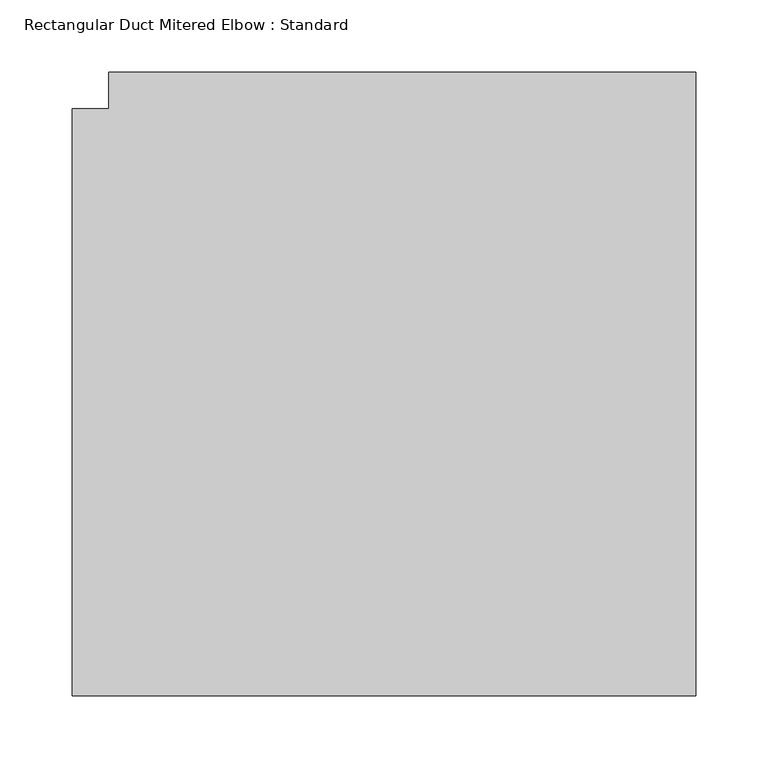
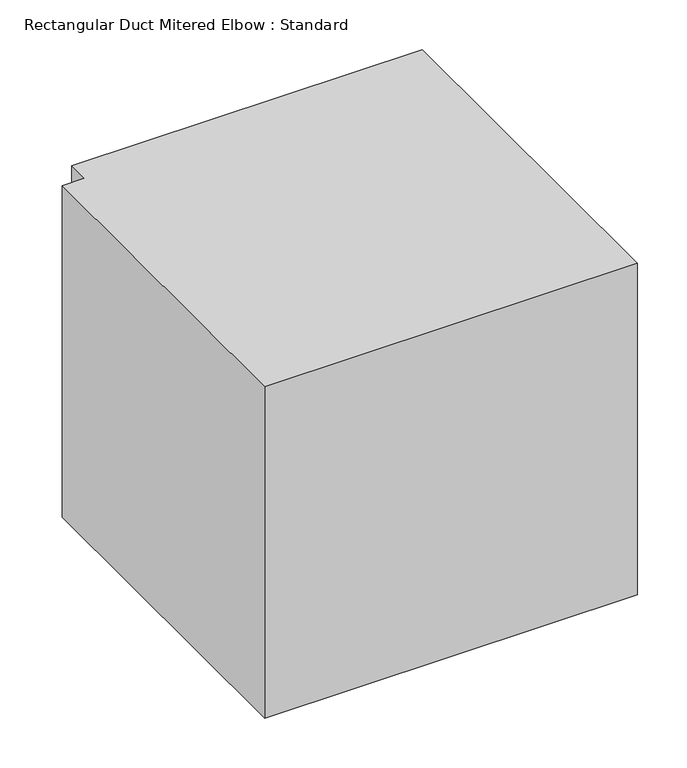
"""IFC4 building model written with IfcOpenShell, lengths in millimetres: duct fitting geometry, Rectangular Duct Mitered Elbow : Standard."""

import ifcopenshell
import ifcopenshell.guid

model = None  # the IFC model being written
_history = None  # IfcOwnerHistory: only IFC2X3 demands one
_inside = {}  # id of a spatial element -> (the spatial element, [elements in it])
_under = {}  # id of a project, library or spatial element -> (it, [spatial elements below it])
_declared = {}  # id of a project -> (the project, [libraries it declares])
_typed = {}  # id of a type object -> (the type object, [elements of that type])
_made_of = {}  # id of a material, layer set ... -> (it, [elements and type objects made of it])


def new_model(schema):
    """Start an empty IFC model of exactly this schema.

    Asked for "IFC4X3", IfcOpenShell would pick the latest addendum, in which some entities
    have other attributes; the version numbers below select the first issue.
    IFC2X3 requires an IfcOwnerHistory on every rooted entity: one is made here for all.
    """
    global model, _history
    if schema == "IFC4X3":
        model = ifcopenshell.file(schema_version=(4, 3, 0, 0))
    else:
        model = ifcopenshell.file(schema=schema)
    _inside.clear()
    _under.clear()
    _declared.clear()
    _typed.clear()
    _made_of.clear()
    _history = None
    if model.schema == "IFC2X3":
        org = make("IfcOrganization", Name="unknown")
        user = make(
            "IfcPersonAndOrganization",
            ThePerson=make("IfcPerson", FamilyName="unknown"),
            TheOrganization=org,
        )
        app = make(
            "IfcApplication",
            ApplicationDeveloper=org,
            Version="unknown",
            ApplicationFullName="unknown",
            ApplicationIdentifier="unknown",
        )
        _history = make(
            "IfcOwnerHistory",
            OwningUser=user,
            OwningApplication=app,
            ChangeAction="ADDED",
            CreationDate=0,
        )
    return model


def make(cls, **values):
    """One entity of the class cls with the attributes given. An attribute that is None is left unset."""
    return model.create_entity(
        cls, **{name: value for name, value in values.items() if value is not None}
    )


def rooted(cls, **values):
    """An entity with a GlobalId (a new one), such as an element, a storey or a relation."""
    return make(cls, GlobalId=ifcopenshell.guid.new(), OwnerHistory=_history, **values)


def si_unit(unit_type, name, prefix=None):
    """IfcSIUnit, for example si_unit("LENGTHUNIT", "METRE", prefix="MILLI")."""
    return make("IfcSIUnit", UnitType=unit_type, Prefix=prefix, Name=name)


def assignment(units):
    """IfcUnitAssignment: the units of a project."""
    return None if units is None else make("IfcUnitAssignment", Units=units)


def point(xyz):
    """IfcCartesianPoint."""
    return None if xyz is None else make("IfcCartesianPoint", Coordinates=xyz)


def direction(xyz):
    """IfcDirection."""
    return None if xyz is None else make("IfcDirection", DirectionRatios=xyz)


def frame(location, z_axis=None, x_axis=None):
    """IfcAxis2Placement3D, a coordinate frame: its origin and axes. An axis left out is left unset."""
    return make(
        "IfcAxis2Placement3D",
        Location=point(location),
        Axis=direction(z_axis),
        RefDirection=direction(x_axis),
    )


def origin():
    """The frame at (0, 0, 0) with its axes left unset."""
    return frame((0.0, 0.0, 0.0))


def place(relative_to, where):
    """IfcLocalPlacement: puts the frame where relative to a parent placement (None: the world)."""
    return make(
        "IfcLocalPlacement", PlacementRelTo=relative_to, RelativePlacement=where
    )


def context(
    kind, dimensions, precision=None, world=None, true_north=None, identifier=None
):
    """IfcGeometricRepresentationContext, for example the 3D "Model" context."""
    return make(
        "IfcGeometricRepresentationContext",
        ContextIdentifier=identifier,
        ContextType=kind,
        CoordinateSpaceDimension=dimensions,
        Precision=precision,
        WorldCoordinateSystem=world,
        TrueNorth=true_north,
    )


def project(units=None, contexts=None):
    """IfcProject with its units and contexts."""
    return rooted(
        "IfcProject",
        Name="project",
        RepresentationContexts=contexts,
        UnitsInContext=assignment(units),
    )


def spatial(cls, under=None, at=None, **own):
    """A site, building, storey or space (cls), placed at a placement, below another one or the project."""
    s = rooted(cls, ObjectPlacement=at, **own)
    if under is not None:
        _under.setdefault(under.id(), (under, []))[1].append(s)
    return s


def polyline(points):
    """IfcPolyline through the points."""
    return make("IfcPolyline", Points=[point(p) for p in points])


def outline(outer, holes=None, kind="AREA"):
    """IfcArbitraryClosedProfileDef: a profile drawn as a closed curve; with holes, ...WithVoids."""
    if holes is None:
        return make("IfcArbitraryClosedProfileDef", ProfileType=kind, OuterCurve=outer)
    return make(
        "IfcArbitraryProfileDefWithVoids",
        ProfileType=kind,
        OuterCurve=outer,
        InnerCurves=holes,
    )


def extrude(swept, where, along, depth):
    """IfcExtrudedAreaSolid: the profile swept, set in the frame where, extruded along a direction by depth."""
    return make(
        "IfcExtrudedAreaSolid",
        SweptArea=swept,
        Position=where,
        ExtrudedDirection=direction(along),
        Depth=depth,
    )


def shape(context_of_items, identifier, shape_type, items):
    """IfcShapeRepresentation: the items that make up one representation, for example the "Body"."""
    return make(
        "IfcShapeRepresentation",
        ContextOfItems=context_of_items,
        RepresentationIdentifier=identifier,
        RepresentationType=shape_type,
        Items=items,
    )


def source(mapping_origin, context_of_items, identifier, shape_type, items):
    """IfcRepresentationMap: a shape defined once, which mapped items show again and again."""
    return make(
        "IfcRepresentationMap",
        MappingOrigin=mapping_origin,
        MappedRepresentation=shape(context_of_items, identifier, shape_type, items),
    )


def transform(
    local_origin,
    x_axis=None,
    y_axis=None,
    z_axis=None,
    scale=None,
    scale2=None,
    scale3=None,
    uniform=True,
):
    """IfcCartesianTransformationOperator3D, or its non-uniform kind. x_axis, y_axis, z_axis: its Axis1, 2, 3."""
    if uniform:
        return make(
            "IfcCartesianTransformationOperator3D",
            Axis1=direction(x_axis),
            Axis2=direction(y_axis),
            LocalOrigin=point(local_origin),
            Scale=scale,
            Axis3=direction(z_axis),
        )
    return make(
        "IfcCartesianTransformationOperator3DnonUniform",
        Axis1=direction(x_axis),
        Axis2=direction(y_axis),
        LocalOrigin=point(local_origin),
        Scale=scale,
        Axis3=direction(z_axis),
        Scale2=scale2,
        Scale3=scale3,
    )


def mapped(mapping_source, mapping_target):
    """IfcMappedItem: shows the shape of a source again, moved by a transform."""
    return make(
        "IfcMappedItem", MappingSource=mapping_source, MappingTarget=mapping_target
    )


def made_of(thing, what):
    """Note that an element or type object is made of a material, layer set ...; save() writes the relation."""
    if what is not None:
        _made_of.setdefault(what.id(), (what, []))[1].append(thing)
    return thing


def element(
    cls,
    number,
    at=None,
    inside=None,
    cuts=None,
    type_object=None,
    material=None,
    context=None,
    identifier="Body",
    shape_type=None,
    held_by="IfcProductDefinitionShape",
    body=None,
    shapes=None,
    **own,
):
    """One element of the class cls, such as IfcWall. Its Tag is "e" and its number.

    at: its placement. inside: the storey or other place that contains it. cuts: it is an
    opening in that element (IfcRelVoidsElement). A single representation is given by context,
    identifier, shape_type and body (its items); several are given by shapes. held_by: the class
    of the entity that holds the representations. save() writes the other relations.
    """
    e = rooted(cls, Tag="e%d" % number, ObjectPlacement=at, **own)
    if body is not None:
        shapes = [shape(context, identifier, shape_type, body)]
    if shapes is not None:
        e.Representation = make(held_by, Representations=shapes)
    if inside is not None:
        _inside.setdefault(inside.id(), (inside, []))[1].append(e)
    if cuts is not None:
        rooted(
            "IfcRelVoidsElement", RelatingBuildingElement=cuts, RelatedOpeningElement=e
        )
    if type_object is not None:
        _typed.setdefault(type_object.id(), (type_object, []))[1].append(e)
    return made_of(e, material)


def aggregate(whole, parts):
    """IfcRelAggregates: a whole, such as a stair, and the parts it consists of."""
    return rooted("IfcRelAggregates", RelatingObject=whole, RelatedObjects=parts)


def save(model, path):
    """Write the relations noted so far, then the file.

    IfcRelAggregates (storeys below a building ...), IfcRelContainedInSpatialStructure (elements
    in a storey), IfcRelDefinesByType, IfcRelAssociatesMaterial and IfcRelDeclares: one each for
    every whole, place, type object, material and project.
    """
    for whole, parts in _under.values():
        aggregate(whole, parts)
    for where, things in _inside.values():
        rooted(
            "IfcRelContainedInSpatialStructure",
            RelatedElements=things,
            RelatingStructure=where,
        )
    for kind, things in _typed.values():
        rooted("IfcRelDefinesByType", RelatedObjects=things, RelatingType=kind)
    for what, things in _made_of.values():
        rooted("IfcRelAssociatesMaterial", RelatedObjects=things, RelatingMaterial=what)
    for by, libraries in _declared.values():
        rooted("IfcRelDeclares", RelatingContext=by, RelatedDefinitions=libraries)
    model.write(path)


def rectangular_duct_mitered_elbow_standard_b095041a(model_context):
    return source(origin(), model_context, "Body", "SweptSolid", [
        extrude(outline(polyline([(-228.6, -203.2), (-228.6, 203.2), (-203.2, 203.2), (-203.2, 228.6), (203.2, 228.6), (203.2, -203.2), (-228.6, -203.2)])), frame((0.0, 0.0, -203.2), z_axis=(0.0, 0.0, 1.0), x_axis=(1.0, 0.0, 0.0)), (0.0, 0.0, 1.0), 406.4),
        extrude(outline(polyline([(-228.6, -203.2), (-228.6, 203.2), (-203.2, 203.2), (-203.2, 228.6), (203.2, 228.6), (203.2, -203.2), (-228.6, -203.2)])), frame((0.0, 0.0, -203.2), z_axis=(0.0, 0.0, 1.0), x_axis=(1.0, 0.0, 0.0)), (0.0, 0.0, 1.0), 406.4),
        extrude(outline(polyline([(-228.6, -203.2), (-228.6, 203.2), (-203.2, 203.2), (-203.2, 228.6), (203.2, 228.6), (203.2, -203.2), (-228.6, -203.2)])), frame((0.0, 0.0, -203.2), z_axis=(0.0, 0.0, 1.0), x_axis=(1.0, 0.0, 0.0)), (0.0, 0.0, 1.0), 406.4),
    ])


if __name__ == "__main__":
    model = new_model("IFC4")
    model_context = context("Model", 3, world=origin())
    ifc_project = project(units=[si_unit("LENGTHUNIT", "METRE", prefix="MILLI")], contexts=[model_context])
    site = spatial("IfcSite", under=ifc_project)
    building = spatial("IfcBuilding", under=site)
    placement = place(None, origin())
    rectangular_duct_mitered_elbow_standard_shape = rectangular_duct_mitered_elbow_standard_b095041a(model_context)
    element("IfcDuctFitting", 1, ObjectType="Rectangular Duct Mitered Elbow : Standard", at=placement, inside=building, context=model_context, shape_type="MappedRepresentation", body=[
        mapped(rectangular_duct_mitered_elbow_standard_shape, transform((0.0, 0.0, 0.0), x_axis=(1.0, 0.0, 0.0), y_axis=(0.0, 1.0, 0.0), z_axis=(0.0, 0.0, 1.0))),
    ])
    save(model, "model.ifc")
